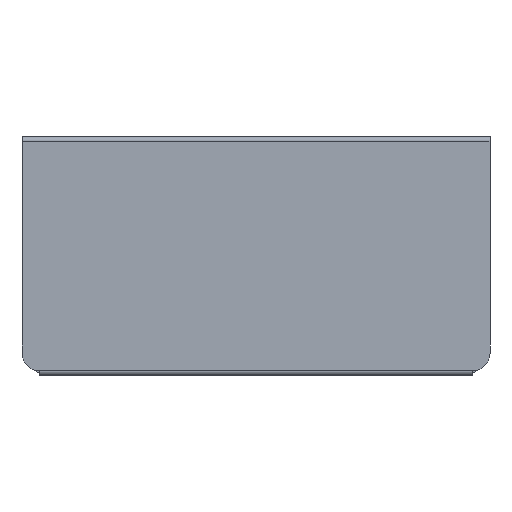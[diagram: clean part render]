
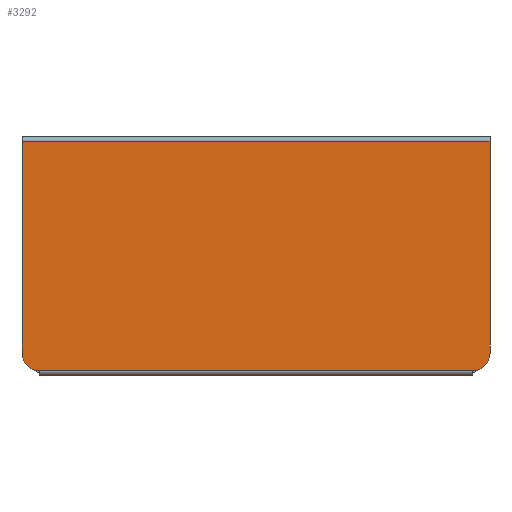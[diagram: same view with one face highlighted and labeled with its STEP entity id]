
A CAD part, top view. The second image highlights one B-rep face of the part: STEP entity #3292.
In plain terms, the highlighted planar face has unit normal (0, 0, 1).
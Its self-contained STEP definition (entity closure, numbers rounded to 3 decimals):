
#284=CIRCLE('',#3623,10.);
#285=CIRCLE('',#3624,10.);
#439=FACE_OUTER_BOUND('',#643,.T.);
#643=EDGE_LOOP('',(#2938,#2939,#2940,#2941,#2942,#2943,#2944,#2945,#2946,
#2947));
#863=LINE('',#5210,#1189);
#869=LINE('',#5222,#1195);
#870=LINE('',#5225,#1196);
#910=LINE('',#5351,#1236);
#926=LINE('',#5391,#1252);
#930=LINE('',#5399,#1256);
#965=LINE('',#5510,#1291);
#967=LINE('',#5518,#1293);
#1189=VECTOR('',#4241,10.);
#1195=VECTOR('',#4249,10.);
#1196=VECTOR('',#4252,10.);
#1236=VECTOR('',#4368,10.);
#1252=VECTOR('',#4418,10.);
#1256=VECTOR('',#4426,10.);
#1291=VECTOR('',#4525,10.);
#1293=VECTOR('',#4535,10.);
#1508=VERTEX_POINT('',#5206);
#1510=VERTEX_POINT('',#5209);
#1513=VERTEX_POINT('',#5216);
#1515=VERTEX_POINT('',#5220);
#1516=VERTEX_POINT('',#5224);
#1564=VERTEX_POINT('',#5349);
#1573=VERTEX_POINT('',#5397);
#1616=VERTEX_POINT('',#5507);
#1617=VERTEX_POINT('',#5509);
#1619=VERTEX_POINT('',#5516);
#1921=EDGE_CURVE('',#1510,#1508,#863,.T.);
#1927=EDGE_CURVE('',#1515,#1513,#869,.T.);
#1928=EDGE_CURVE('',#1513,#1516,#870,.T.);
#1992=EDGE_CURVE('',#1564,#1508,#910,.T.);
#2012=EDGE_CURVE('',#1564,#1516,#926,.T.);
#2016=EDGE_CURVE('',#1573,#1515,#930,.T.);
#2070=EDGE_CURVE('',#1616,#1617,#965,.T.);
#2073=EDGE_CURVE('',#1573,#1617,#284,.T.);
#2074=EDGE_CURVE('',#1616,#1619,#285,.T.);
#2075=EDGE_CURVE('',#1510,#1619,#967,.T.);
#2938=ORIENTED_EDGE('',*,*,#2016,.F.);
#2939=ORIENTED_EDGE('',*,*,#2073,.T.);
#2940=ORIENTED_EDGE('',*,*,#2070,.F.);
#2941=ORIENTED_EDGE('',*,*,#2074,.T.);
#2942=ORIENTED_EDGE('',*,*,#2075,.F.);
#2943=ORIENTED_EDGE('',*,*,#1921,.T.);
#2944=ORIENTED_EDGE('',*,*,#1992,.F.);
#2945=ORIENTED_EDGE('',*,*,#2012,.T.);
#2946=ORIENTED_EDGE('',*,*,#1928,.F.);
#2947=ORIENTED_EDGE('',*,*,#1927,.F.);
#3138=PLANE('',#3622);
#3292=ADVANCED_FACE('',(#439),#3138,.T.);
#3622=AXIS2_PLACEMENT_3D('',#5514,#4529,#4530);
#3623=AXIS2_PLACEMENT_3D('',#5515,#4531,#4532);
#3624=AXIS2_PLACEMENT_3D('',#5517,#4533,#4534);
#4241=DIRECTION('',(0.,1.,0.));
#4249=DIRECTION('',(0.,1.,0.));
#4252=DIRECTION('',(0.,1.,0.));
#4368=DIRECTION('',(0.,-1.,0.));
#4418=DIRECTION('',(-1.,0.,0.));
#4426=DIRECTION('',(0.,1.,0.));
#4525=DIRECTION('',(-1.,0.,0.));
#4529=DIRECTION('center_axis',(0.,0.,1.));
#4530=DIRECTION('ref_axis',(0.,1.,0.));
#4531=DIRECTION('center_axis',(0.,0.,1.));
#4532=DIRECTION('ref_axis',(-1.,0.,0.));
#4533=DIRECTION('center_axis',(0.,0.,1.));
#4534=DIRECTION('ref_axis',(0.,-1.,0.));
#4535=DIRECTION('',(0.,-1.,0.));
#5206=CARTESIAN_POINT('',(120.,-105.4,72.5));
#5209=CARTESIAN_POINT('',(120.,-119.1,72.5));
#5210=CARTESIAN_POINT('',(120.,-119.1,72.5));
#5216=CARTESIAN_POINT('',(-150.,-105.4,72.5));
#5220=CARTESIAN_POINT('',(-150.,-119.1,72.5));
#5222=CARTESIAN_POINT('',(-150.,-119.1,72.5));
#5224=CARTESIAN_POINT('',(-150.,0.9,72.5));
#5225=CARTESIAN_POINT('',(-150.,0.9,72.5));
#5349=CARTESIAN_POINT('',(120.,0.9,72.5));
#5351=CARTESIAN_POINT('',(120.,0.9,72.5));
#5391=CARTESIAN_POINT('',(120.,0.9,72.5));
#5397=CARTESIAN_POINT('',(-150.,-121.6,72.5));
#5399=CARTESIAN_POINT('',(-150.,-12.8,72.5));
#5507=CARTESIAN_POINT('',(110.,-131.6,72.5));
#5509=CARTESIAN_POINT('',(-140.,-131.6,72.5));
#5510=CARTESIAN_POINT('',(120.,-131.6,72.5));
#5514=CARTESIAN_POINT('Origin',(120.,-131.6,72.5));
#5515=CARTESIAN_POINT('Origin',(-140.,-121.6,72.5));
#5516=CARTESIAN_POINT('',(120.,-121.6,72.5));
#5517=CARTESIAN_POINT('Origin',(110.,-121.6,72.5));
#5518=CARTESIAN_POINT('',(120.,-12.8,72.5));
